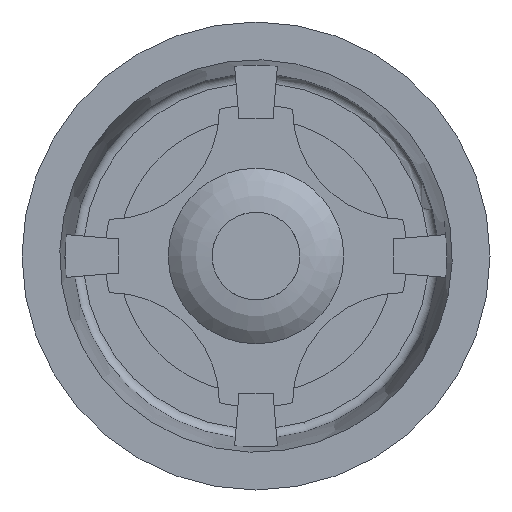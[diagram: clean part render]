
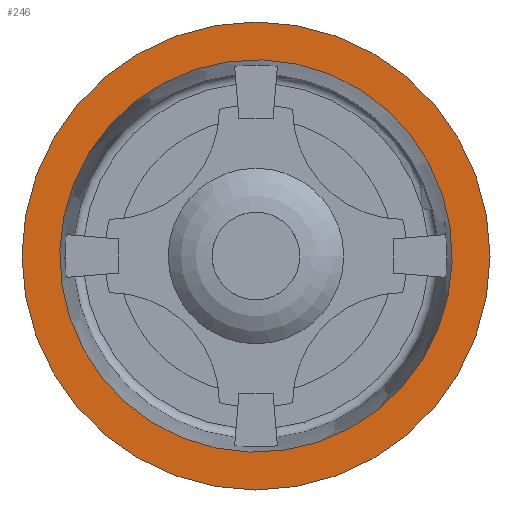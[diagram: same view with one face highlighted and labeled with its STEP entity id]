
A CAD part, front view. The second image highlights one B-rep face of the part: STEP entity #246.
In plain terms, the highlighted planar face has unit normal (0, -1, 0).
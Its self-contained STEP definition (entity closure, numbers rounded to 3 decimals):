
#246=ADVANCED_FACE('',(#8235,#8237),#8239,.T.);
#8235=FACE_BOUND('',#8236,.T.);
#8236=EDGE_LOOP('',(#16950));
#8237=FACE_BOUND('',#8238,.T.);
#8238=EDGE_LOOP('',(#16951));
#8239=PLANE('',#8240);
#8240=AXIS2_PLACEMENT_3D('',#8241,#8242,#8243);
#8241=CARTESIAN_POINT('',(3038.161,2088.381,0.));
#8242=DIRECTION('',(0.,-1.,0.));
#8243=DIRECTION('',(0.,0.,-1.));
#16950=ORIENTED_EDGE('',*,*,#22147,.T.);
#16951=ORIENTED_EDGE('',*,*,#22110,.F.);
#22110=EDGE_CURVE('',#25554,#25554,#25555,.T.);
#22147=EDGE_CURVE('',#25616,#25616,#25617,.T.);
#25554=VERTEX_POINT('',#33451);
#25555=CIRCLE('',#33452,40.25);
#25616=VERTEX_POINT('',#34168);
#25617=CIRCLE('',#34169,48.);
#33451=CARTESIAN_POINT('',(3105.21,2088.381,30.031));
#33452=AXIS2_PLACEMENT_3D('',#33453,#33454,#33455);
#33453=CARTESIAN_POINT('',(3078.411,2088.381,0.));
#33454=DIRECTION('',(0.,-1.,0.));
#33455=DIRECTION('',(-1.,0.,0.));
#34168=CARTESIAN_POINT('',(3126.411,2088.381,0.));
#34169=AXIS2_PLACEMENT_3D('',#34170,#34171,#34172);
#34170=CARTESIAN_POINT('',(3078.411,2088.381,0.));
#34171=DIRECTION('',(0.,-1.,0.));
#34172=DIRECTION('',(-1.,0.,0.));
